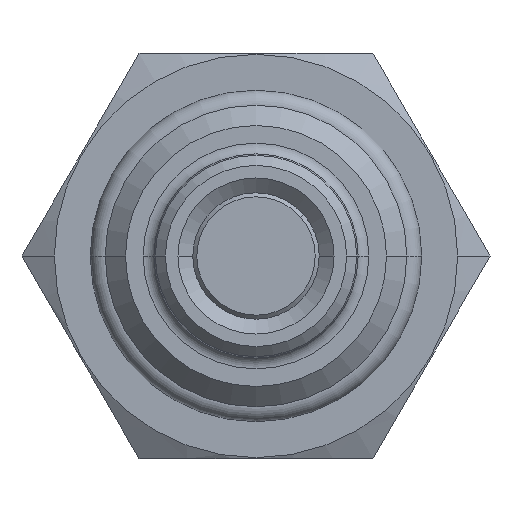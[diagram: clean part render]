
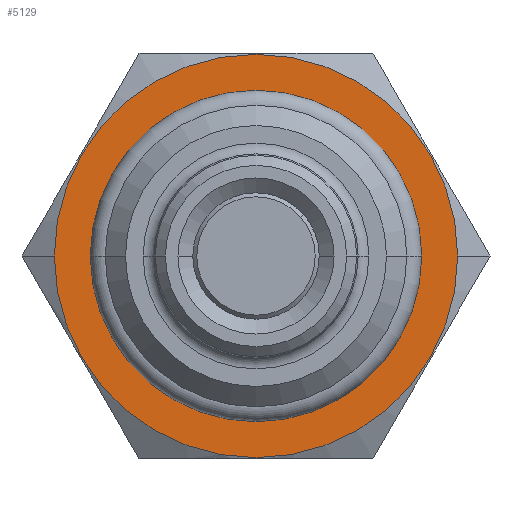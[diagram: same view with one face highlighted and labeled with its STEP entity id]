
A CAD part, front view. The second image highlights one B-rep face of the part: STEP entity #5129.
In plain terms, the highlighted planar face has unit normal (0, -1, 0).
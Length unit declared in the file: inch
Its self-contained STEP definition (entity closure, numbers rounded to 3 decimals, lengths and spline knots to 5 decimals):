
#1885=CARTESIAN_POINT('',(0.,0.,0.));
#1886=DIRECTION('',(0.,-1.,0.));
#1887=DIRECTION('',(-1.,0.,0.));
#1888=AXIS2_PLACEMENT_3D('',#1885,#1886,#1887);
#1893=CARTESIAN_POINT('',(0.,0.,0.));
#1894=DIRECTION('',(0.,1.,0.));
#1895=DIRECTION('',(-1.,0.,0.));
#1896=AXIS2_PLACEMENT_3D('',#1893,#1894,#1895);
#1901=CARTESIAN_POINT('',(0.,0.,0.));
#1902=DIRECTION('',(0.,1.,0.));
#1903=DIRECTION('',(1.,0.,0.));
#1904=AXIS2_PLACEMENT_3D('',#1901,#1902,#1903);
#1909=CARTESIAN_POINT('',(0.,0.,0.));
#1910=DIRECTION('',(0.,1.,0.));
#1911=DIRECTION('',(-1.,0.,0.));
#1912=AXIS2_PLACEMENT_3D('',#1909,#1910,#1911);
#3938=CARTESIAN_POINT('',(-0.4975,0.,0.));
#3940=VERTEX_POINT('',#3938);
#3942=CARTESIAN_POINT('',(0.4975,0.,0.));
#3944=VERTEX_POINT('',#3942);
#4081=CARTESIAN_POINT('',(0.37315,0.,0.));
#4082=CARTESIAN_POINT('',(-0.37315,0.,0.));
#4083=VERTEX_POINT('',#4081);
#4084=VERTEX_POINT('',#4082);
#5113=CARTESIAN_POINT('',(0.,0.,0.));
#5114=DIRECTION('',(0.,1.,0.));
#5115=DIRECTION('',(-1.,0.,0.));
#5116=AXIS2_PLACEMENT_3D('',#5113,#5114,#5115);
#5117=PLANE('',#5116);
#5119=ORIENTED_EDGE('',*,*,#5118,.F.);
#5121=ORIENTED_EDGE('',*,*,#5120,.T.);
#5122=EDGE_LOOP('',(#5119,#5121));
#5123=FACE_OUTER_BOUND('',#5122,.F.);
#5124=ORIENTED_EDGE('',*,*,#5096,.F.);
#5126=ORIENTED_EDGE('',*,*,#5125,.F.);
#5127=EDGE_LOOP('',(#5124,#5126));
#5128=FACE_BOUND('',#5127,.F.);
#1889=CIRCLE('',#1888,0.4975);
#1897=CIRCLE('',#1896,0.4975);
#1905=CIRCLE('',#1904,0.37315);
#1913=CIRCLE('',#1912,0.37315);
#5096=EDGE_CURVE('',#4083,#4084,#1905,.T.);
#5118=EDGE_CURVE('',#3940,#3944,#1889,.T.);
#5120=EDGE_CURVE('',#3940,#3944,#1897,.T.);
#5125=EDGE_CURVE('',#4084,#4083,#1913,.T.);
#5129=ADVANCED_FACE('',(#5123,#5128),#5117,.F.);
